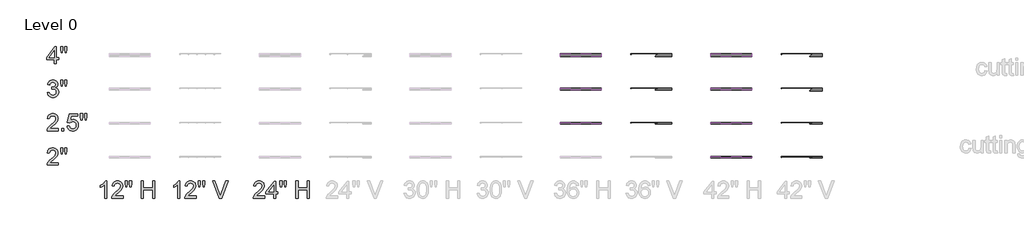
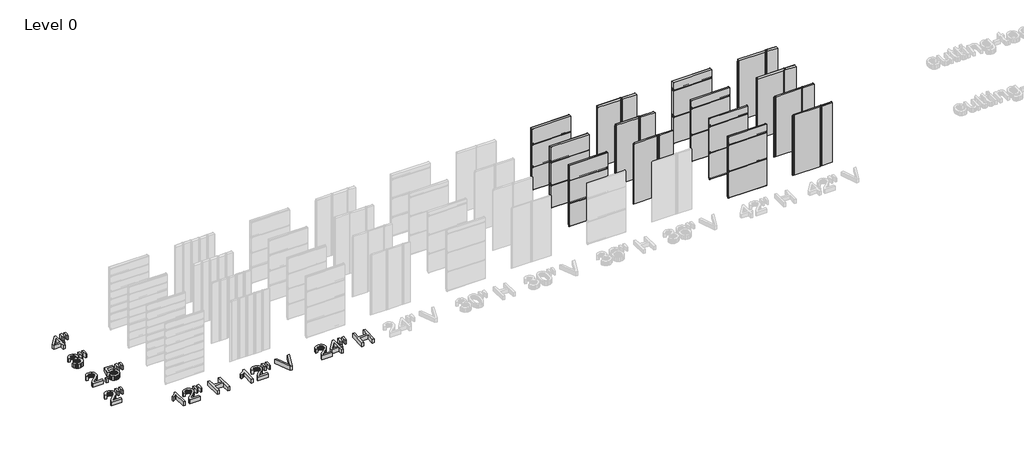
# One storey, part 2 of 5: 35 plates, 7 proxies.
"""IFC4 building model written with IfcOpenShell, lengths in millimetres."""

from ifc_helpers import new_model, si_unit, origin, origin_with_axes, place, context, project, spatial, polyline, outline, extrude, transform, mapped, element, save
from components import plate_749ad104, plate_0339fd76, plate_df57b0b7, plate_1b0fe15b, plate_cbdb335c, plate_ec5e73b8, plate_041463de, plate_1aa83632, plate_be580332, plate_0f1cd221, plate_32df100a, plate_3bbae645, plate_f2bdf8cb, plate_1998553f, plate_e125ebaa, plate_7b0d1b0b, plate_7129748d, plate_249c2ded, plate_3f556fd6, plate_4bd44487, plate_8a952727, plate_a92ee706, plate_ccc09a26, plate_4c4a6c8b

model = new_model("IFC4")

# Units and contexts
model_context = context("Model", 3, world=origin())
ifc_project = project(units=[si_unit("LENGTHUNIT", "METRE", prefix="MILLI")], contexts=[model_context])

# Site, building, storey
site = spatial("IfcSite", under=ifc_project)
building = spatial("IfcBuilding", under=site)
storey = spatial("IfcBuildingStorey", under=building, Name="Level 0", Elevation=0.0)

# Proxies
placement = place(None, origin())
element("IfcBuildingElementProxy", 1, Name="24\" Arial", ObjectType="24\" Arial", at=placement, inside=storey, context=model_context, shape_type="SweptSolid", body=[
    extrude(outline(polyline([(-32312.5108068, 10658.7692936), (-32312.5108068, 10582.6275201), (-32712.2551178, 10582.6275201), (-32710.5820807, 10609.433291), (-32704.0758257, 10635.1237038), (-32685.3006325, 10676.1502893), (-32657.8256469, 10715.949981), (-32618.0817231, 10757.6086027), (-32562.4997156, 10804.2119782), (-32480.3350088, 10877.1935707), (-32431.0361847, 10931.0653626), (-32416.657361, 10953.075094), (-32406.3867727, 10974.7873966), (-32400.2244197, 10996.2022704), (-32398.170302, 11017.3197154), (-32400.1082366, 11037.18703), (-32405.9220402, 11055.4463701), (-32415.6117129, 11072.0977357), (-32429.1772547, 11087.1411269), (-32445.8657989, 11099.6006053), (-32464.9244789, 11108.5002328), (-32486.3532947, 11113.8400093), (-32510.1522463, 11115.6199347), (-32535.2245649, 11113.8818352), (-32557.6479082, 11108.6675365), (-32577.4222763, 11099.9770386), (-32594.5476691, 11087.8103417), (-32608.401345, 11072.5764102), (-32618.3605626, 11054.6842088), (-32624.4253218, 11034.1337374), (-32626.5956226, 11010.9249962), (-32702.7373961, 11020.4427178), (-32696.1893151, 11059.7497931), (-32684.278221, 11094.0935251), (-32667.0041138, 11123.4739141), (-32644.3669935, 11147.8909598), (-32616.8873605, 11167.0844123), (-32585.0857153, 11180.7940212), (-32548.9620577, 11189.0197865), (-32508.5163878, 11191.7617083), (-32467.7082266, 11188.713063), (-32431.3893814, 11179.5671273), (-32399.5598522, 11164.3239012), (-32372.219639, 11142.9833846), (-32350.2610281, 11117.1256681), (-32334.5763061, 11088.3308421), (-32325.1654729, 11056.5989067), (-32322.0285285, 11021.9298619), (-32325.4117811, 10985.5134228), (-32335.561539, 10949.72902), (-32353.5745709, 10913.3311702), (-32380.5476454, 10875.0743905), (-32423.5446967, 10829.4004799), (-32489.6296589, 10770.7512379), (-32577.2224413, 10697.5093952), (-32611.575468, 10658.7692936), (-32312.5108068, 10658.7692936)])), origin_with_axes(), (0.0, 0.0, 1.0), 152.4),
    extrude(outline(polyline([(-32217.7797331, 10972.8541094), (-32236.3690333, 11090.4872009), (-32236.3690333, 11191.7617083), (-32160.2272598, 11191.7617083), (-32160.2272598, 11090.4872009), (-32176.8832727, 10972.8541094), (-32217.7797331, 10972.8541094)])), origin_with_axes(), (0.0, 0.0, 1.0), 152.4),
    extrude(outline(polyline([(-32065.9423293, 10972.8541094), (-32084.0854862, 11090.4872009), (-32084.0854862, 11191.7617083), (-32007.9437127, 11191.7617083), (-32007.9437127, 11090.4872009), (-32025.7894409, 10972.8541094), (-32065.9423293, 10972.8541094)])), origin_with_axes(), (0.0, 0.0, 1.0), 152.4),
])
element("IfcBuildingElementProxy", 2, Name="24\" Arial", ObjectType="24\" Arial", at=placement, inside=storey, context=model_context, shape_type="SweptSolid", body=[
    extrude(outline(polyline([(-32312.5108068, 11877.9692936), (-32312.5108068, 11801.8275201), (-32712.2551178, 11801.8275201), (-32710.5820807, 11828.633291), (-32704.0758257, 11854.3237038), (-32685.3006325, 11895.3502893), (-32657.8256469, 11935.149981), (-32618.0817231, 11976.8086027), (-32562.4997156, 12023.4119782), (-32480.3350088, 12096.3935707), (-32431.0361847, 12150.2653626), (-32416.657361, 12172.275094), (-32406.3867727, 12193.9873966), (-32400.2244197, 12215.4022704), (-32398.170302, 12236.5197154), (-32400.1082366, 12256.38703), (-32405.9220402, 12274.6463701), (-32415.6117129, 12291.2977357), (-32429.1772547, 12306.3411269), (-32445.8657989, 12318.8006053), (-32464.9244789, 12327.7002328), (-32486.3532947, 12333.0400093), (-32510.1522463, 12334.8199347), (-32535.2245649, 12333.0818352), (-32557.6479082, 12327.8675365), (-32577.4222763, 12319.1770386), (-32594.5476691, 12307.0103417), (-32608.401345, 12291.7764102), (-32618.3605626, 12273.8842088), (-32624.4253218, 12253.3337374), (-32626.5956226, 12230.1249962), (-32702.7373961, 12239.6427178), (-32696.1893151, 12278.9497931), (-32684.278221, 12313.2935251), (-32667.0041138, 12342.6739141), (-32644.3669935, 12367.0909598), (-32616.8873605, 12386.2844123), (-32585.0857153, 12399.9940212), (-32548.9620577, 12408.2197865), (-32508.5163878, 12410.9617083), (-32467.7082266, 12407.913063), (-32431.3893814, 12398.7671273), (-32399.5598522, 12383.5239012), (-32372.219639, 12362.1833846), (-32350.2610281, 12336.3256681), (-32334.5763061, 12307.5308421), (-32325.1654729, 12275.7989067), (-32322.0285285, 12241.1298619), (-32325.4117811, 12204.7134228), (-32335.561539, 12168.92902), (-32353.5745709, 12132.5311702), (-32380.5476454, 12094.2743905), (-32423.5446967, 12048.6004799), (-32489.6296589, 11989.9512379), (-32577.2224413, 11916.7093952), (-32611.575468, 11877.9692936), (-32312.5108068, 11877.9692936)])), origin_with_axes(), (0.0, 0.0, 1.0), 152.4),
    extrude(outline(polyline([(-32198.2981465, 11801.8275201), (-32198.2981465, 11877.9692936), (-32122.156373, 11877.9692936), (-32122.156373, 11801.8275201), (-32198.2981465, 11801.8275201)])), origin_with_axes(), (0.0, 0.0, 1.0), 152.4),
    extrude(outline(polyline([(-31998.425991, 11963.6287888), (-31922.2842175, 11973.1465105), (-31916.5958917, 11948.6690495), (-31908.3050638, 11927.4354214), (-31897.4117339, 11909.4456262), (-31883.915902, 11894.6996638), (-31867.845452, 11883.2161236), (-31849.2282678, 11875.0135949), (-31828.0643496, 11870.0920777), (-31804.3536972, 11868.4515719), (-31775.3543889, 11870.7334085), (-31749.7755119, 11877.5789183), (-31727.6170661, 11888.9881013), (-31708.8790515, 11904.9609575), (-31693.9797274, 11924.7074416), (-31683.3373531, 11947.4375084), (-31676.9519285, 11973.1511579), (-31674.8234536, 12001.84839), (-31676.817156, 12028.970179), (-31682.7982634, 12053.0805013), (-31692.7667756, 12074.179357), (-31706.7226927, 12092.2667461), (-31724.7124879, 12106.7756948), (-31746.7826346, 12117.1392297), (-31772.9331326, 12123.3573506), (-31803.163982, 12125.4300576), (-31840.1009215, 12122.1211621), (-31870.0111054, 12112.1944758), (-31893.8983562, 12096.9884283), (-31912.7664958, 12077.8414491), (-31988.9082694, 12087.3591708), (-31922.2842175, 12401.4439866), (-31627.2348451, 12401.4439866), (-31627.2348451, 12325.3022131), (-31860.7164553, 12325.3022131), (-31893.2849093, 12157.5523683), (-31866.4140758, 12176.8108833), (-31838.8926169, 12190.5669654), (-31810.7205325, 12198.8206147), (-31781.8978226, 12201.5718311), (-31744.8168161, 12198.1606945), (-31710.7565708, 12187.9272848), (-31679.7170869, 12170.8716018), (-31651.6983642, 12146.9936458), (-31628.5035649, 12117.7526766), (-31611.9358511, 12084.6079544), (-31601.9952228, 12047.5594791), (-31598.6816801, 12006.6072509), (-31601.6652628, 11967.1607559), (-31610.6160108, 11930.4654773), (-31625.5339242, 11896.5214152), (-31646.4190029, 11865.3285695), (-31678.0579918, 11833.3828572), (-31714.976342, 11810.5644912), (-31757.1740534, 11796.8734716), (-31804.651126, 11792.3097984), (-31843.9442593, 11795.2422605), (-31879.4358806, 11804.0396468), (-31911.1259901, 11818.7019574), (-31939.0145877, 11839.2291921), (-31962.2186816, 11864.5989395), (-31979.8552802, 11893.7887881), (-31991.9243833, 11926.7987379), (-31998.425991, 11963.6287888)])), origin_with_axes(), (0.0, 0.0, 1.0), 152.4),
    extrude(outline(polyline([(-31513.4683281, 12192.0541094), (-31532.0576283, 12309.6872009), (-31532.0576283, 12410.9617083), (-31455.9158547, 12410.9617083), (-31455.9158547, 12309.6872009), (-31472.5718677, 12192.0541094), (-31513.4683281, 12192.0541094)])), origin_with_axes(), (0.0, 0.0, 1.0), 152.4),
    extrude(outline(polyline([(-31361.6309242, 12192.0541094), (-31379.7740812, 12309.6872009), (-31379.7740812, 12410.9617083), (-31303.6323077, 12410.9617083), (-31303.6323077, 12309.6872009), (-31321.4780359, 12192.0541094), (-31361.6309242, 12192.0541094)])), origin_with_axes(), (0.0, 0.0, 1.0), 152.4),
])
element("IfcBuildingElementProxy", 3, Name="24\" Arial", ObjectType="24\" Arial", at=placement, inside=storey, context=model_context, shape_type="SweptSolid", body=[
    extrude(outline(polyline([(-32702.7373961, 13157.4287888), (-32626.5956226, 13166.9465105), (-32609.5492343, 13119.0976519), (-32598.0563995, 13101.0009682), (-32584.5838042, 13086.7894482), (-32568.8247249, 13076.0541273), (-32550.4724383, 13068.386041), (-32529.5269444, 13063.7851892), (-32505.988243, 13062.2515719), (-32478.4017216, 13064.3614575), (-32453.7894881, 13070.6911142), (-32432.1515427, 13081.2405421), (-32413.4878854, 13096.0097411), (-32398.4584362, 13113.8926478), (-32387.7231153, 13133.783199), (-32381.2819228, 13155.6813946), (-32379.1348586, 13179.5872347), (-32381.2633335, 13202.35448), (-32387.6487581, 13223.0676078), (-32398.2911325, 13241.7266178), (-32413.1904565, 13258.3315102), (-32431.3707921, 13271.9621145), (-32451.8562009, 13281.6982605), (-32474.6466829, 13287.5399481), (-32499.7422382, 13289.4871773), (-32523.7967926, 13287.4051757), (-32553.1307083, 13281.1591708), (-32544.6539874, 13357.3009443), (-32532.4594065, 13356.4086579), (-32486.8412638, 13361.8739122), (-32446.0563393, 13378.2696749), (-32429.2702012, 13390.6687381), (-32417.2801026, 13406.0049108), (-32410.0860434, 13424.2781929), (-32407.6880237, 13445.4885844), (-32409.4261233, 13462.7069236), (-32414.640422, 13478.3730564), (-32423.3309198, 13492.4869825), (-32435.4976168, 13505.0487021), (-32450.4062355, 13515.3611164), (-32467.3224987, 13522.7271266), (-32486.2464062, 13527.1467327), (-32507.1779582, 13528.6199347), (-32528.0537423, 13527.1327907), (-32547.107775, 13522.6713587), (-32564.3400563, 13515.2356386), (-32579.7505861, 13504.8256305), (-32592.9582839, 13491.4413344), (-32603.5820689, 13475.0827502), (-32611.6219413, 13455.7498781), (-32617.0779009, 13433.4427178), (-32693.2196744, 13442.9604395), (-32684.1945692, 13479.311816), (-32670.8009784, 13511.3318856), (-32653.0389021, 13539.0206482), (-32630.9083402, 13562.3781039), (-32605.1063916, 13580.9209308), (-32576.3301549, 13594.1658072), (-32544.5796302, 13602.112733), (-32509.8548175, 13604.7617083), (-32461.9873695, 13599.5381149), (-32418.0236746, 13583.8673349), (-32380.95661, 13559.1435656), (-32353.7790532, 13526.7610047), (-32337.1044509, 13489.4522793), (-32331.5462502, 13449.9500164), (-32336.8256114, 13413.1432021), (-32352.6636952, 13379.7568189), (-32378.8374298, 13351.3151897), (-32415.1237438, 13329.3426369), (-32389.749349, 13321.4050057), (-32367.4607781, 13310.0841219), (-32348.258031, 13295.3799854), (-32332.1411078, 13277.2925964), (-32319.3888479, 13256.2680979), (-32310.2800908, 13232.7526332), (-32304.8148365, 13206.7462022), (-32302.9930851, 13178.248805), (-32306.6365879, 13139.6202393), (-32317.5670964, 13104.0403187), (-32335.7846106, 13071.5090434), (-32361.2891305, 13042.0264134), (-32392.3611457, 13017.5628943), (-32427.2811461, 13000.0889522), (-32466.0491316, 12989.6045869), (-32508.6651022, 12986.1097984), (-32547.1821322, 12989.0933811), (-32582.2787309, 12998.0441291), (-32613.9548984, 13012.9620425), (-32642.2106347, 13033.8471213), (-32665.9026978, 13059.4724716), (-32683.8878457, 13088.6111996), (-32696.1660785, 13121.2633054), (-32702.7373961, 13157.4287888)])), origin_with_axes(), (0.0, 0.0, 1.0), 152.4),
    extrude(outline(polyline([(-32217.7797331, 13385.8541094), (-32236.3690333, 13503.4872009), (-32236.3690333, 13604.7617083), (-32160.2272598, 13604.7617083), (-32160.2272598, 13503.4872009), (-32176.8832727, 13385.8541094), (-32217.7797331, 13385.8541094)])), origin_with_axes(), (0.0, 0.0, 1.0), 152.4),
    extrude(outline(polyline([(-32065.9423293, 13385.8541094), (-32084.0854862, 13503.4872009), (-32084.0854862, 13604.7617083), (-32007.9437127, 13604.7617083), (-32007.9437127, 13503.4872009), (-32025.7894409, 13385.8541094), (-32065.9423293, 13385.8541094)])), origin_with_axes(), (0.0, 0.0, 1.0), 152.4),
])
element("IfcBuildingElementProxy", 4, Name="24\" Arial", ObjectType="24\" Arial", at=placement, inside=storey, context=model_context, shape_type="SweptSolid", body=[
    extrude(outline(polyline([(-32455.2766321, 14189.4275201), (-32455.2766321, 14332.1933455), (-32731.2905611, 14332.1933455), (-32731.2905611, 14408.335119), (-32436.2411888, 14789.0439866), (-32379.1348586, 14789.0439866), (-32379.1348586, 14408.335119), (-32302.9930851, 14408.335119), (-32302.9930851, 14332.1933455), (-32379.1348586, 14332.1933455), (-32379.1348586, 14189.4275201), (-32455.2766321, 14189.4275201)]), holes=[polyline([(-32455.2766321, 14408.335119), (-32455.2766321, 14643.601302), (-32637.6004883, 14408.335119), (-32455.2766321, 14408.335119)])]), origin_with_axes(), (0.0, 0.0, 1.0), 152.4),
    extrude(outline(polyline([(-32217.7797331, 14579.6541094), (-32236.3690333, 14697.2872009), (-32236.3690333, 14798.5617083), (-32160.2272598, 14798.5617083), (-32160.2272598, 14697.2872009), (-32176.8832727, 14579.6541094), (-32217.7797331, 14579.6541094)])), origin_with_axes(), (0.0, 0.0, 1.0), 152.4),
    extrude(outline(polyline([(-32065.9423293, 14579.6541094), (-32084.0854862, 14697.2872009), (-32084.0854862, 14798.5617083), (-32007.9437127, 14798.5617083), (-32007.9437127, 14697.2872009), (-32025.7894409, 14579.6541094), (-32065.9423293, 14579.6541094)])), origin_with_axes(), (0.0, 0.0, 1.0), 152.4),
])
element("IfcBuildingElementProxy", 5, Name="24\" Arial", ObjectType="24\" Arial", at=placement, inside=storey, context=model_context, shape_type="SweptSolid", body=[
    extrude(outline(polyline([(-30589.8489204, 9409.440542), (-30665.9906939, 9409.440542), (-30665.9906939, 9884.1369113), (-30697.7783972, 9858.4279091), (-30738.1171786, 9832.7560856), (-30780.4636044, 9810.3188003), (-30818.2742409, 9794.3134128), (-30818.2742409, 9866.2911831), (-30758.4724623, 9898.8224584), (-30706.6640827, 9937.5253814), (-30665.8233902, 9978.682092), (-30638.9246728, 10018.5747302), (-30589.8489204, 10018.5747302), (-30589.8489204, 9409.440542)])), origin_with_axes(), (0.0, 0.0, 1.0), 152.4),
    extrude(outline(polyline([(-30018.785619, 9485.5823155), (-30018.785619, 9409.440542), (-30418.52993, 9409.440542), (-30416.8568929, 9436.2463129), (-30410.3506379, 9461.9367257), (-30391.5754447, 9502.9633112), (-30364.100459, 9542.7630029), (-30324.3565353, 9584.4216246), (-30268.7745278, 9631.0250001), (-30186.609821, 9704.0065926), (-30137.3109969, 9757.8783845), (-30122.9321732, 9779.8881159), (-30112.6615849, 9801.6004185), (-30106.4992319, 9823.0152923), (-30104.4451142, 9844.1327373), (-30106.3830487, 9864.0000519), (-30112.1968524, 9882.259392), (-30121.8865251, 9898.9107576), (-30135.4520669, 9913.9541488), (-30152.1406111, 9926.4136272), (-30171.1992911, 9935.3132547), (-30192.6281069, 9940.6530311), (-30216.4270585, 9942.4329566), (-30241.4993771, 9940.6948571), (-30263.9227204, 9935.4805584), (-30283.6970885, 9926.7900605), (-30300.8224813, 9914.6233636), (-30314.6761572, 9899.3894321), (-30324.6353748, 9881.4972307), (-30330.700134, 9860.9467593), (-30332.8704348, 9837.7380181), (-30409.0122083, 9847.2557397), (-30402.4641273, 9886.562815), (-30390.5530332, 9920.906547), (-30373.278926, 9950.286936), (-30350.6418057, 9974.7039817), (-30323.1621727, 9993.8974342), (-30291.3605275, 10007.6070431), (-30255.2368699, 10015.8328084), (-30214.7912, 10018.5747302), (-30173.9830388, 10015.5260849), (-30137.6641936, 10006.3801492), (-30105.8346644, 9991.1369231), (-30078.4944512, 9969.7964065), (-30056.5358403, 9943.93869), (-30040.8511183, 9915.143864), (-30031.4402851, 9883.4119286), (-30028.3033407, 9848.7428838), (-30031.6865933, 9812.3264447), (-30041.8363512, 9776.5420419), (-30059.8493831, 9740.1441921), (-30086.8224576, 9701.8874124), (-30129.8195089, 9656.2135018), (-30195.9044711, 9597.5642598), (-30283.4972535, 9524.3224171), (-30317.8502802, 9485.5823155), (-30018.785619, 9485.5823155)])), origin_with_axes(), (0.0, 0.0, 1.0), 152.4),
    extrude(outline(polyline([(-29924.0545453, 9799.6671313), (-29942.6438455, 9917.3002228), (-29942.6438455, 10018.5747302), (-29866.502072, 10018.5747302), (-29866.502072, 9917.3002228), (-29883.1580849, 9799.6671313), (-29924.0545453, 9799.6671313)])), origin_with_axes(), (0.0, 0.0, 1.0), 152.4),
    extrude(outline(polyline([(-29772.2171415, 9799.6671313), (-29790.3602984, 9917.3002228), (-29790.3602984, 10018.5747302), (-29714.2185249, 10018.5747302), (-29714.2185249, 9917.3002228), (-29732.0642531, 9799.6671313), (-29772.2171415, 9799.6671313)])), origin_with_axes(), (0.0, 0.0, 1.0), 152.4),
    extrude(outline(polyline([(-29371.5805441, 9409.440542), (-29371.5805441, 10018.5747302), (-29295.4387706, 10018.5747302), (-29295.4387706, 9771.1139662), (-28971.8362331, 9771.1139662), (-28971.8362331, 10018.5747302), (-28895.6944596, 10018.5747302), (-28895.6944596, 9409.440542), (-28971.8362331, 9409.440542), (-28971.8362331, 9694.9721927), (-29295.4387706, 9694.9721927), (-29295.4387706, 9409.440542), (-29371.5805441, 9409.440542)])), origin_with_axes(), (0.0, 0.0, 1.0), 152.4),
])
element("IfcBuildingElementProxy", 6, Name="24\" Arial", ObjectType="24\" Arial", at=placement, inside=storey, context=model_context, shape_type="SweptSolid", body=[
    extrude(outline(polyline([(-27999.0489204, 9409.440542), (-28075.1906939, 9409.440542), (-28075.1906939, 9884.1369113), (-28106.9783972, 9858.4279091), (-28147.3171786, 9832.7560856), (-28189.6636044, 9810.3188003), (-28227.4742409, 9794.3134128), (-28227.4742409, 9866.2911831), (-28167.6724623, 9898.8224584), (-28115.8640827, 9937.5253814), (-28075.0233902, 9978.682092), (-28048.1246728, 10018.5747302), (-27999.0489204, 10018.5747302), (-27999.0489204, 9409.440542)])), origin_with_axes(), (0.0, 0.0, 1.0), 152.4),
    extrude(outline(polyline([(-27427.985619, 9485.5823155), (-27427.985619, 9409.440542), (-27827.72993, 9409.440542), (-27826.0568929, 9436.2463129), (-27819.5506379, 9461.9367257), (-27800.7754447, 9502.9633112), (-27773.300459, 9542.7630029), (-27733.5565353, 9584.4216246), (-27677.9745278, 9631.0250001), (-27595.809821, 9704.0065926), (-27546.5109969, 9757.8783845), (-27532.1321732, 9779.8881159), (-27521.8615849, 9801.6004185), (-27515.6992319, 9823.0152923), (-27513.6451142, 9844.1327373), (-27515.5830487, 9864.0000519), (-27521.3968524, 9882.259392), (-27531.0865251, 9898.9107576), (-27544.6520669, 9913.9541488), (-27561.3406111, 9926.4136272), (-27580.3992911, 9935.3132547), (-27601.8281069, 9940.6530311), (-27625.6270585, 9942.4329566), (-27650.6993771, 9940.6948571), (-27673.1227204, 9935.4805584), (-27692.8970885, 9926.7900605), (-27710.0224813, 9914.6233636), (-27723.8761572, 9899.3894321), (-27733.8353748, 9881.4972307), (-27739.900134, 9860.9467593), (-27742.0704348, 9837.7380181), (-27818.2122083, 9847.2557397), (-27811.6641273, 9886.562815), (-27799.7530332, 9920.906547), (-27782.478926, 9950.286936), (-27759.8418057, 9974.7039817), (-27732.3621727, 9993.8974342), (-27700.5605275, 10007.6070431), (-27664.4368699, 10015.8328084), (-27623.9912, 10018.5747302), (-27583.1830388, 10015.5260849), (-27546.8641936, 10006.3801492), (-27515.0346644, 9991.1369231), (-27487.6944512, 9969.7964065), (-27465.7358403, 9943.93869), (-27450.0511183, 9915.143864), (-27440.6402851, 9883.4119286), (-27437.5033407, 9848.7428838), (-27440.8865933, 9812.3264447), (-27451.0363512, 9776.5420419), (-27469.0493831, 9740.1441921), (-27496.0224576, 9701.8874124), (-27539.0195089, 9656.2135018), (-27605.1044711, 9597.5642598), (-27692.6972535, 9524.3224171), (-27727.0502802, 9485.5823155), (-27427.985619, 9485.5823155)])), origin_with_axes(), (0.0, 0.0, 1.0), 152.4),
    extrude(outline(polyline([(-27333.2545453, 9799.6671313), (-27351.8438455, 9917.3002228), (-27351.8438455, 10018.5747302), (-27275.702072, 10018.5747302), (-27275.702072, 9917.3002228), (-27292.3580849, 9799.6671313), (-27333.2545453, 9799.6671313)])), origin_with_axes(), (0.0, 0.0, 1.0), 152.4),
    extrude(outline(polyline([(-27181.4171415, 9799.6671313), (-27199.5602984, 9917.3002228), (-27199.5602984, 10018.5747302), (-27123.4185249, 10018.5747302), (-27123.4185249, 9917.3002228), (-27141.2642531, 9799.6671313), (-27181.4171415, 9799.6671313)])), origin_with_axes(), (0.0, 0.0, 1.0), 152.4),
    extrude(outline(polyline([(-26600.8361184, 9409.440542), (-26843.2405927, 10018.5747302), (-26761.7451007, 10018.5747302), (-26599.4976888, 9579.7185316), (-26566.6318061, 9480.8234547), (-26534.2120666, 9579.7185316), (-26371.5185114, 10018.5747302), (-26290.0230195, 10018.5747302), (-26522.1662001, 9409.440542), (-26600.8361184, 9409.440542)])), origin_with_axes(), (0.0, 0.0, 1.0), 152.4),
])
element("IfcBuildingElementProxy", 7, Name="24\" Arial", ObjectType="24\" Arial", at=placement, inside=storey, context=model_context, shape_type="SweptSolid", body=[
    extrude(outline(polyline([(-24998.7539818, 9485.5823155), (-24998.7539818, 9409.440542), (-25398.4982928, 9409.440542), (-25396.8252557, 9436.2463129), (-25390.3190007, 9461.9367257), (-25371.5438075, 9502.9633112), (-25344.0688218, 9542.7630029), (-25304.3248981, 9584.4216246), (-25248.7428905, 9631.0250001), (-25166.5781838, 9704.0065926), (-25117.2793597, 9757.8783845), (-25102.900536, 9779.8881159), (-25092.6299477, 9801.6004185), (-25086.4675947, 9823.0152923), (-25084.413477, 9844.1327373), (-25086.3514115, 9864.0000519), (-25092.1652152, 9882.259392), (-25101.8548879, 9898.9107576), (-25115.4204297, 9913.9541488), (-25132.1089739, 9926.4136272), (-25151.1676539, 9935.3132547), (-25172.5964697, 9940.6530311), (-25196.3954213, 9942.4329566), (-25221.4677399, 9940.6948571), (-25243.8910832, 9935.4805584), (-25263.6654513, 9926.7900605), (-25280.790844, 9914.6233636), (-25294.64452, 9899.3894321), (-25304.6037376, 9881.4972307), (-25310.6684968, 9860.9467593), (-25312.8387975, 9837.7380181), (-25388.9805711, 9847.2557397), (-25382.4324901, 9886.562815), (-25370.521396, 9920.906547), (-25353.2472888, 9950.286936), (-25330.6101685, 9974.7039817), (-25303.1305355, 9993.8974342), (-25271.3288903, 10007.6070431), (-25235.2052327, 10015.8328084), (-25194.7595628, 10018.5747302), (-25153.9514016, 10015.5260849), (-25117.6325564, 10006.3801492), (-25085.8030272, 9991.1369231), (-25058.462814, 9969.7964065), (-25036.5042031, 9943.93869), (-25020.8194811, 9915.143864), (-25011.4086479, 9883.4119286), (-25008.2717035, 9848.7428838), (-25011.6549561, 9812.3264447), (-25021.804714, 9776.5420419), (-25039.8177459, 9740.1441921), (-25066.7908204, 9701.8874124), (-25109.7878717, 9656.2135018), (-25175.8728339, 9597.5642598), (-25263.4656163, 9524.3224171), (-25297.818643, 9485.5823155), (-24998.7539818, 9485.5823155)])), origin_with_axes(), (0.0, 0.0, 1.0), 152.4),
    extrude(outline(polyline([(-24675.1514443, 9409.440542), (-24675.1514443, 9552.2063674), (-24951.1653733, 9552.2063674), (-24951.1653733, 9628.3481409), (-24656.116001, 10009.0570085), (-24599.0096708, 10009.0570085), (-24599.0096708, 9628.3481409), (-24522.8678973, 9628.3481409), (-24522.8678973, 9552.2063674), (-24599.0096708, 9552.2063674), (-24599.0096708, 9409.440542), (-24675.1514443, 9409.440542)]), holes=[polyline([(-24675.1514443, 9628.3481409), (-24675.1514443, 9863.6143239), (-24857.4753005, 9628.3481409), (-24675.1514443, 9628.3481409)])]), origin_with_axes(), (0.0, 0.0, 1.0), 152.4),
    extrude(outline(polyline([(-24437.6545453, 9799.6671313), (-24456.2438455, 9917.3002228), (-24456.2438455, 10018.5747302), (-24380.102072, 10018.5747302), (-24380.102072, 9917.3002228), (-24396.7580849, 9799.6671313), (-24437.6545453, 9799.6671313)])), origin_with_axes(), (0.0, 0.0, 1.0), 152.4),
    extrude(outline(polyline([(-24285.8171415, 9799.6671313), (-24303.9602984, 9917.3002228), (-24303.9602984, 10018.5747302), (-24227.8185249, 10018.5747302), (-24227.8185249, 9917.3002228), (-24245.6642531, 9799.6671313), (-24285.8171415, 9799.6671313)])), origin_with_axes(), (0.0, 0.0, 1.0), 152.4),
    extrude(outline(polyline([(-23885.1805441, 9409.440542), (-23885.1805441, 10018.5747302), (-23809.0387706, 10018.5747302), (-23809.0387706, 9771.1139662), (-23485.4362331, 9771.1139662), (-23485.4362331, 10018.5747302), (-23409.2944596, 10018.5747302), (-23409.2944596, 9409.440542), (-23485.4362331, 9409.440542), (-23485.4362331, 9694.9721927), (-23809.0387706, 9694.9721927), (-23809.0387706, 9409.440542), (-23885.1805441, 9409.440542)])), origin_with_axes(), (0.0, 0.0, 1.0), 152.4),
])

# Plates
plate_shape = plate_749ad104(model_context)
element("IfcPlate", 8, ObjectType="KIP-42-DWHR-R19-CP-Hz-F : Hz 2\"", at=placement, inside=storey, context=model_context, shape_type="MappedRepresentation", body=[
    mapped(plate_shape, transform((-8448.7250935, 10881.8207172, 0.0), x_axis=(1.0, 0.0, 0.0), y_axis=(0.0, 1.0, 0.0), z_axis=(0.0, 0.0, 1.0))),
])
element("IfcPlate", 9, ObjectType="KIP-42-DWHR-R19-CP-Hz-F : Hz 2\"", at=placement, inside=storey, context=model_context, shape_type="MappedRepresentation", body=[
    mapped(plate_shape, transform((-8448.7250935, 10881.8207172, 1066.8), x_axis=(1.0, 0.0, 0.0), y_axis=(0.0, 1.0, 0.0), z_axis=(0.0, 0.0, 1.0))),
])
plate_2_shape = plate_0339fd76(model_context)
element("IfcPlate", 10, ObjectType="KIP-42-DWHR-R19-CP-Hz-F : Hz 2\"", at=placement, inside=storey, context=model_context, shape_type="MappedRepresentation", body=[
    mapped(plate_2_shape, transform((-8448.7250935, 10881.8207172, 2133.6), x_axis=(1.0, 0.0, 0.0), y_axis=(0.0, 1.0, 0.0), z_axis=(0.0, 0.0, 1.0))),
])
element("IfcPlate", 11, ObjectType="KIP-42-DWHR-R19-CP-Hz-F : Hz 2.5\"", at=placement, inside=storey, context=model_context, shape_type="MappedRepresentation", body=[
    mapped(plate_shape, transform((-8448.7250935, 12101.0207172, 0.0), x_axis=(1.0, 0.0, 0.0), y_axis=(0.0, 1.0, 0.0), z_axis=(0.0, 0.0, 1.0))),
])
element("IfcPlate", 12, ObjectType="KIP-42-DWHR-R19-CP-Hz-F : Hz 2.5\"", at=placement, inside=storey, context=model_context, shape_type="MappedRepresentation", body=[
    mapped(plate_shape, transform((-8448.7250935, 12101.0207172, 1066.8), x_axis=(1.0, 0.0, 0.0), y_axis=(0.0, 1.0, 0.0), z_axis=(0.0, 0.0, 1.0))),
])
element("IfcPlate", 13, ObjectType="KIP-42-DWHR-R19-CP-Hz-F : Hz 2.5\"", at=placement, inside=storey, context=model_context, shape_type="MappedRepresentation", body=[
    mapped(plate_2_shape, transform((-8448.7250935, 12101.0207172, 2133.6), x_axis=(1.0, 0.0, 0.0), y_axis=(0.0, 1.0, 0.0), z_axis=(0.0, 0.0, 1.0))),
])
plate_3_shape = plate_df57b0b7(model_context)
element("IfcPlate", 14, ObjectType="KIP-36-DWHR-R19-CP-Hz-F : Hz 2.5\"", at=placement, inside=storey, context=model_context, shape_type="MappedRepresentation", body=[
    mapped(plate_3_shape, transform((-13782.7250935, 12101.0207172, 0.0), x_axis=(1.0, 0.0, 0.0), y_axis=(0.0, 1.0, 0.0), z_axis=(0.0, 0.0, 1.0))),
])
element("IfcPlate", 15, ObjectType="KIP-36-DWHR-R19-CP-Hz-F : Hz 2.5\"", at=placement, inside=storey, context=model_context, shape_type="MappedRepresentation", body=[
    mapped(plate_3_shape, transform((-13782.7250935, 12101.0207172, 914.4), x_axis=(1.0, 0.0, 0.0), y_axis=(0.0, 1.0, 0.0), z_axis=(0.0, 0.0, 1.0))),
])
plate_4_shape = plate_1b0fe15b(model_context)
element("IfcPlate", 16, ObjectType="KIP-36-DWHR-R19-CP-Hz-F : Hz 2.5\"", at=placement, inside=storey, context=model_context, shape_type="MappedRepresentation", body=[
    mapped(plate_4_shape, transform((-13782.7250935, 12101.0207172, 1828.8), x_axis=(1.0, 0.0, 0.0), y_axis=(0.0, 1.0, 0.0), z_axis=(0.0, 0.0, 1.0))),
])
plate_5_shape = plate_cbdb335c(model_context)
element("IfcPlate", 17, ObjectType="KIP-42-DWHR-R19-CP-Hz-F : Hz 3\"", at=placement, inside=storey, context=model_context, shape_type="MappedRepresentation", body=[
    mapped(plate_5_shape, transform((-8448.7250935, 13320.2207172, 0.0), x_axis=(1.0, 0.0, 0.0), y_axis=(0.0, 1.0, 0.0), z_axis=(0.0, 0.0, 1.0))),
])
element("IfcPlate", 18, ObjectType="KIP-42-DWHR-R19-CP-Hz-F : Hz 3\"", at=placement, inside=storey, context=model_context, shape_type="MappedRepresentation", body=[
    mapped(plate_5_shape, transform((-8448.7250935, 13320.2207172, 1066.8), x_axis=(1.0, 0.0, 0.0), y_axis=(0.0, 1.0, 0.0), z_axis=(0.0, 0.0, 1.0))),
])
plate_6_shape = plate_ec5e73b8(model_context)
element("IfcPlate", 19, ObjectType="KIP-42-DWHR-R19-CP-Hz-F : Hz 3\"", at=placement, inside=storey, context=model_context, shape_type="MappedRepresentation", body=[
    mapped(plate_6_shape, transform((-8448.7250935, 13320.2207172, 2133.6), x_axis=(1.0, 0.0, 0.0), y_axis=(0.0, 1.0, 0.0), z_axis=(0.0, 0.0, 1.0))),
])
plate_7_shape = plate_041463de(model_context)
element("IfcPlate", 20, ObjectType="KIP-36-DWHR-R19-CP-Hz-F : Hz 3\"", at=placement, inside=storey, context=model_context, shape_type="MappedRepresentation", body=[
    mapped(plate_7_shape, transform((-13782.7250935, 13320.2207172, 0.0), x_axis=(1.0, 0.0, 0.0), y_axis=(0.0, 1.0, 0.0), z_axis=(0.0, 0.0, 1.0))),
])
element("IfcPlate", 21, ObjectType="KIP-36-DWHR-R19-CP-Hz-F : Hz 3\"", at=placement, inside=storey, context=model_context, shape_type="MappedRepresentation", body=[
    mapped(plate_7_shape, transform((-13782.7250935, 13320.2207172, 914.4), x_axis=(1.0, 0.0, 0.0), y_axis=(0.0, 1.0, 0.0), z_axis=(0.0, 0.0, 1.0))),
])
plate_8_shape = plate_1aa83632(model_context)
element("IfcPlate", 22, ObjectType="KIP-36-DWHR-R19-CP-Hz-F : Hz 3\"", at=placement, inside=storey, context=model_context, shape_type="MappedRepresentation", body=[
    mapped(plate_8_shape, transform((-13782.7250935, 13320.2207172, 1828.8), x_axis=(1.0, 0.0, 0.0), y_axis=(0.0, 1.0, 0.0), z_axis=(0.0, 0.0, 1.0))),
])
plate_9_shape = plate_be580332(model_context)
element("IfcPlate", 23, ObjectType="KIP-42-DWHR-R19-CP-Hz-F : Hz 4\"", at=placement, inside=storey, context=model_context, shape_type="MappedRepresentation", body=[
    mapped(plate_9_shape, transform((-8448.7250935, 14539.4207172, 0.0), x_axis=(1.0, 0.0, 0.0), y_axis=(0.0, 1.0, 0.0), z_axis=(0.0, 0.0, 1.0))),
])
element("IfcPlate", 24, ObjectType="KIP-42-DWHR-R19-CP-Hz-F : Hz 4\"", at=placement, inside=storey, context=model_context, shape_type="MappedRepresentation", body=[
    mapped(plate_9_shape, transform((-8448.7250935, 14539.4207172, 1066.8), x_axis=(1.0, 0.0, 0.0), y_axis=(0.0, 1.0, 0.0), z_axis=(0.0, 0.0, 1.0))),
])
plate_10_shape = plate_0f1cd221(model_context)
element("IfcPlate", 25, ObjectType="KIP-42-DWHR-R19-CP-Hz-F : Hz 4\"", at=placement, inside=storey, context=model_context, shape_type="MappedRepresentation", body=[
    mapped(plate_10_shape, transform((-8448.7250935, 14539.4207172, 2133.6), x_axis=(1.0, 0.0, 0.0), y_axis=(0.0, 1.0, 0.0), z_axis=(0.0, 0.0, 1.0))),
])
plate_11_shape = plate_32df100a(model_context)
element("IfcPlate", 26, ObjectType="KIP-36-DWHR-R19-CP-Hz-F : Hz 4\"", at=placement, inside=storey, context=model_context, shape_type="MappedRepresentation", body=[
    mapped(plate_11_shape, transform((-13782.7250935, 14539.4207172, 0.0), x_axis=(1.0, 0.0, 0.0), y_axis=(0.0, 1.0, 0.0), z_axis=(0.0, 0.0, 1.0))),
])
element("IfcPlate", 27, ObjectType="KIP-36-DWHR-R19-CP-Hz-F : Hz 4\"", at=placement, inside=storey, context=model_context, shape_type="MappedRepresentation", body=[
    mapped(plate_11_shape, transform((-13782.7250935, 14539.4207172, 914.4), x_axis=(1.0, 0.0, 0.0), y_axis=(0.0, 1.0, 0.0), z_axis=(0.0, 0.0, 1.0))),
])
plate_12_shape = plate_3bbae645(model_context)
element("IfcPlate", 28, ObjectType="KIP-36-DWHR-R19-CP-Hz-F : Hz 4\"", at=placement, inside=storey, context=model_context, shape_type="MappedRepresentation", body=[
    mapped(plate_12_shape, transform((-13782.7250935, 14539.4207172, 1828.8), x_axis=(1.0, 0.0, 0.0), y_axis=(0.0, 1.0, 0.0), z_axis=(0.0, 0.0, 1.0))),
])
plate_13_shape = plate_f2bdf8cb(model_context)
element("IfcPlate", 29, ObjectType="KIP-42-DWHR-R19-CP-Vt-F : Vt 2\"", at=placement, inside=storey, context=model_context, shape_type="MappedRepresentation", body=[
    mapped(plate_13_shape, transform((-6145.5413834, 10881.8207172, 0.0), x_axis=(1.0, 0.0, 0.0), y_axis=(0.0, 1.0, 0.0), z_axis=(0.0, 0.0, 1.0))),
])
plate_14_shape = plate_1998553f(model_context)
element("IfcPlate", 30, ObjectType="KIP-42-DWHR-R19-CP-Vt-F : Vt 2\"", at=placement, inside=storey, context=model_context, shape_type="MappedRepresentation", body=[
    mapped(plate_14_shape, transform((-5415.5413834, 10881.8207172, 0.0), x_axis=(1.0, 0.0, 0.0), y_axis=(0.0, 1.0, 0.0), z_axis=(0.0, 0.0, 1.0))),
])
plate_15_shape = plate_e125ebaa(model_context)
element("IfcPlate", 31, ObjectType="KIP-42-DWHR-R19-CP-Vt-F : Vt 2.5\"", at=placement, inside=storey, context=model_context, shape_type="MappedRepresentation", body=[
    mapped(plate_15_shape, transform((-6145.5413834, 12101.0207172, 0.0), x_axis=(1.0, 0.0, 0.0), y_axis=(0.0, 1.0, 0.0), z_axis=(0.0, 0.0, 1.0))),
])
plate_16_shape = plate_7b0d1b0b(model_context)
element("IfcPlate", 32, ObjectType="KIP-42-DWHR-R19-CP-Vt-F : Vt 2.5\"", at=placement, inside=storey, context=model_context, shape_type="MappedRepresentation", body=[
    mapped(plate_16_shape, transform((-5415.5413834, 12101.0207172, 0.0), x_axis=(1.0, 0.0, 0.0), y_axis=(0.0, 1.0, 0.0), z_axis=(0.0, 0.0, 1.0))),
])
plate_17_shape = plate_7129748d(model_context)
element("IfcPlate", 33, ObjectType="KIP-36-DWHR-R19-CP-Vt-F : Vt 2.5\"", at=placement, inside=storey, context=model_context, shape_type="MappedRepresentation", body=[
    mapped(plate_17_shape, transform((-11555.7413834, 12101.0207172, 0.0), x_axis=(1.0, 0.0, 0.0), y_axis=(0.0, 1.0, 0.0), z_axis=(0.0, 0.0, 1.0))),
])
plate_18_shape = plate_249c2ded(model_context)
element("IfcPlate", 34, ObjectType="KIP-36-DWHR-R19-CP-Vt-F : Vt 2.5\"", at=placement, inside=storey, context=model_context, shape_type="MappedRepresentation", body=[
    mapped(plate_18_shape, transform((-10825.7413834, 12101.0207172, 0.0), x_axis=(1.0, 0.0, 0.0), y_axis=(0.0, 1.0, 0.0), z_axis=(0.0, 0.0, 1.0))),
])
plate_19_shape = plate_3f556fd6(model_context)
element("IfcPlate", 35, ObjectType="KIP-42-DWHR-R19-CP-Vt-F : Vt 3\"", at=placement, inside=storey, context=model_context, shape_type="MappedRepresentation", body=[
    mapped(plate_19_shape, transform((-6145.5413834, 13320.2207172, 0.0), x_axis=(1.0, 0.0, 0.0), y_axis=(0.0, 1.0, 0.0), z_axis=(0.0, 0.0, 1.0))),
])
plate_20_shape = plate_4bd44487(model_context)
element("IfcPlate", 36, ObjectType="KIP-42-DWHR-R19-CP-Vt-F : Vt 3\"", at=placement, inside=storey, context=model_context, shape_type="MappedRepresentation", body=[
    mapped(plate_20_shape, transform((-5415.5413834, 13320.2207172, 0.0), x_axis=(1.0, 0.0, 0.0), y_axis=(0.0, 1.0, 0.0), z_axis=(0.0, 0.0, 1.0))),
])
plate_21_shape = plate_8a952727(model_context)
element("IfcPlate", 37, ObjectType="KIP-36-DWHR-R19-CP-Vt-F : Vt 3\"", at=placement, inside=storey, context=model_context, shape_type="MappedRepresentation", body=[
    mapped(plate_21_shape, transform((-11555.7413834, 13320.2207172, 0.0), x_axis=(1.0, 0.0, 0.0), y_axis=(0.0, 1.0, 0.0), z_axis=(0.0, 0.0, 1.0))),
])
plate_22_shape = plate_a92ee706(model_context)
element("IfcPlate", 38, ObjectType="KIP-36-DWHR-R19-CP-Vt-F : Vt 3\"", at=placement, inside=storey, context=model_context, shape_type="MappedRepresentation", body=[
    mapped(plate_22_shape, transform((-10825.7413834, 13320.2207172, 0.0), x_axis=(1.0, 0.0, 0.0), y_axis=(0.0, 1.0, 0.0), z_axis=(0.0, 0.0, 1.0))),
])
element("IfcPlate", 39, ObjectType="KIP-42-DWHR-R19-CP-Vt-F : Vt 4\"", at=placement, inside=storey, context=model_context, shape_type="MappedRepresentation", body=[
    mapped(plate_19_shape, transform((-6145.5413834, 14539.4207172, 0.0), x_axis=(1.0, 0.0, 0.0), y_axis=(0.0, 1.0, 0.0), z_axis=(0.0, 0.0, 1.0))),
])
element("IfcPlate", 40, ObjectType="KIP-42-DWHR-R19-CP-Vt-F : Vt 4\"", at=placement, inside=storey, context=model_context, shape_type="MappedRepresentation", body=[
    mapped(plate_20_shape, transform((-5415.5413834, 14539.4207172, 0.0), x_axis=(1.0, 0.0, 0.0), y_axis=(0.0, 1.0, 0.0), z_axis=(0.0, 0.0, 1.0))),
])
plate_23_shape = plate_ccc09a26(model_context)
element("IfcPlate", 41, ObjectType="KIP-36-DWHR-R19-CP-Vt-F : Vt 4\"", at=placement, inside=storey, context=model_context, shape_type="MappedRepresentation", body=[
    mapped(plate_23_shape, transform((-11555.7413834, 14539.4207172, 0.0), x_axis=(1.0, 0.0, 0.0), y_axis=(0.0, 1.0, 0.0), z_axis=(0.0, 0.0, 1.0))),
])
plate_24_shape = plate_4c4a6c8b(model_context)
element("IfcPlate", 42, ObjectType="KIP-36-DWHR-R19-CP-Vt-F : Vt 4\"", at=placement, inside=storey, context=model_context, shape_type="MappedRepresentation", body=[
    mapped(plate_24_shape, transform((-10825.7413834, 14539.4207172, 0.0), x_axis=(1.0, 0.0, 0.0), y_axis=(0.0, 1.0, 0.0), z_axis=(0.0, 0.0, 1.0))),
])

save(model, "model.ifc")
